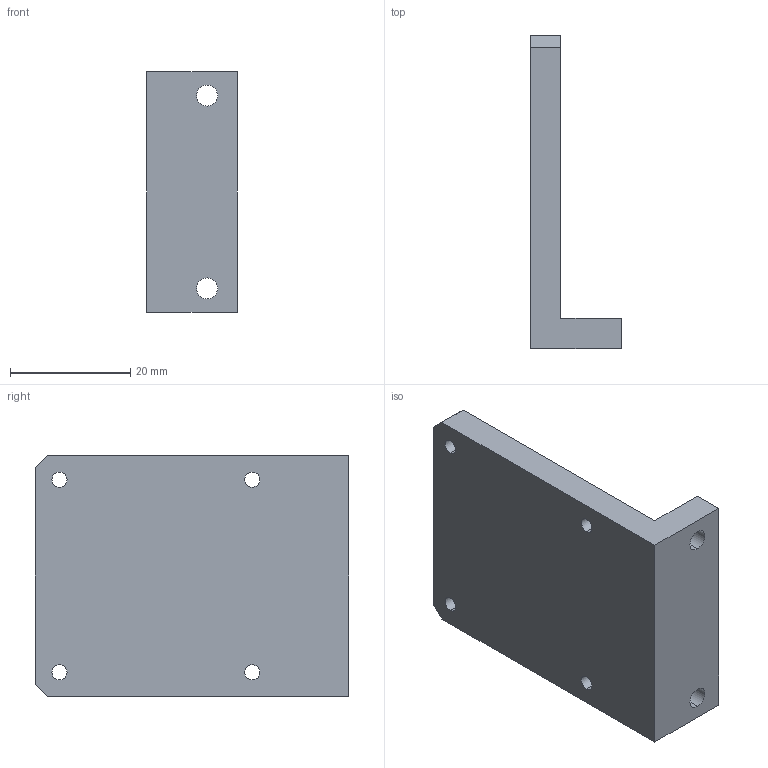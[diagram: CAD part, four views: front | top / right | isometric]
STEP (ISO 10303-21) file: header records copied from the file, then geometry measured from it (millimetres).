
FILE_DESCRIPTION (( 'STEP AP203' ), '1' );
FILE_NAME ('PJK25.STEP', '2022-04-10T01:02:32', ( '' ), ( '' ), 'SwSTEP 2.0', 'SolidWorks 2017', '' );
FILE_SCHEMA (( 'CONFIG_CONTROL_DESIGN' ));
Length unit declared in the file: millimetre
Products named in the file (1): PJK25
Bounding box: 15 x 52 x 40 mm (x, y, z)
Volume: 12092.3 mm3; surface area: 6188.8 mm2
Topology: 1 solids, 1 shells, 28 faces, 72 edges, 48 vertices
Faces by surface type: cylinder 16, plane 12
Entity records: 969 total; most frequent: DIRECTION 162, CARTESIAN_POINT 149, ORIENTED_EDGE 144, EDGE_CURVE 72, AXIS2_PLACEMENT_3D 61, VERTEX_POINT 48, EDGE_LOOP 42, VECTOR 40
